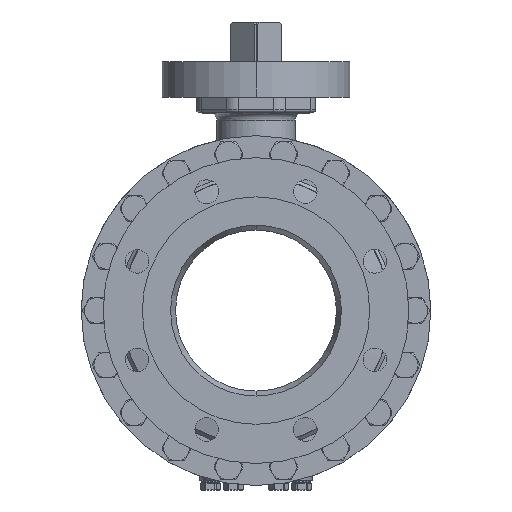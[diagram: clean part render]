
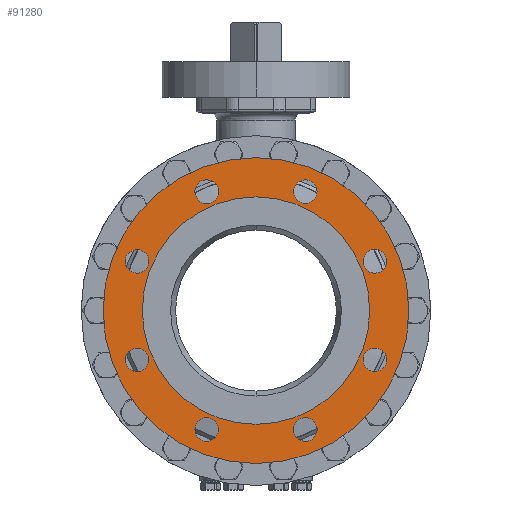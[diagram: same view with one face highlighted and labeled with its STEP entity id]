
A CAD part, left-side view. The second image highlights one B-rep face of the part: STEP entity #91280.
In plain terms, the highlighted planar face has unit normal (-1, 0, 0).
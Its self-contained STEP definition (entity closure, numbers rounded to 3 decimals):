
#14516=CARTESIAN_POINT('',(-194.,0.,0.));
#14517=DIRECTION('',(-1.,0.,0.));
#14518=DIRECTION('',(0.,0.,1.));
#14519=AXIS2_PLACEMENT_3D('',#14516,#14517,#14518);
#14521=CARTESIAN_POINT('',(-194.,0.,0.));
#14522=DIRECTION('',(-1.,0.,0.));
#14523=DIRECTION('',(0.,0.,-1.));
#14524=AXIS2_PLACEMENT_3D('',#14521,#14522,#14523);
#14526=CARTESIAN_POINT('',(-194.,-45.922,110.866));
#14527=DIRECTION('',(-1.,0.,0.));
#14528=DIRECTION('',(0.,-1.,0.));
#14529=AXIS2_PLACEMENT_3D('',#14526,#14527,#14528);
#14531=CARTESIAN_POINT('',(-194.,-45.922,110.866));
#14532=DIRECTION('',(-1.,0.,0.));
#14533=DIRECTION('',(0.,1.,0.));
#14534=AXIS2_PLACEMENT_3D('',#14531,#14532,#14533);
#14536=CARTESIAN_POINT('',(-194.,45.922,110.866));
#14537=DIRECTION('',(-1.,0.,0.));
#14538=DIRECTION('',(0.,-0.707,0.707));
#14539=AXIS2_PLACEMENT_3D('',#14536,#14537,#14538);
#14541=CARTESIAN_POINT('',(-194.,45.922,110.866));
#14542=DIRECTION('',(-1.,0.,0.));
#14543=DIRECTION('',(0.,0.707,-0.707));
#14544=AXIS2_PLACEMENT_3D('',#14541,#14542,#14543);
#14546=CARTESIAN_POINT('',(-194.,110.866,45.922));
#14547=DIRECTION('',(-1.,0.,0.));
#14548=DIRECTION('',(0.,0.,1.));
#14549=AXIS2_PLACEMENT_3D('',#14546,#14547,#14548);
#14551=CARTESIAN_POINT('',(-194.,110.866,45.922));
#14552=DIRECTION('',(-1.,0.,0.));
#14553=DIRECTION('',(0.,0.,-1.));
#14554=AXIS2_PLACEMENT_3D('',#14551,#14552,#14553);
#14556=CARTESIAN_POINT('',(-194.,110.866,-45.922));
#14557=DIRECTION('',(-1.,0.,0.));
#14558=DIRECTION('',(0.,0.707,0.707));
#14559=AXIS2_PLACEMENT_3D('',#14556,#14557,#14558);
#14561=CARTESIAN_POINT('',(-194.,110.866,-45.922));
#14562=DIRECTION('',(-1.,0.,0.));
#14563=DIRECTION('',(0.,-0.707,-0.707));
#14564=AXIS2_PLACEMENT_3D('',#14561,#14562,#14563);
#14566=CARTESIAN_POINT('',(-194.,45.922,-110.866));
#14567=DIRECTION('',(-1.,0.,0.));
#14568=DIRECTION('',(0.,1.,0.));
#14569=AXIS2_PLACEMENT_3D('',#14566,#14567,#14568);
#14571=CARTESIAN_POINT('',(-194.,45.922,-110.866));
#14572=DIRECTION('',(-1.,0.,0.));
#14573=DIRECTION('',(0.,-1.,0.));
#14574=AXIS2_PLACEMENT_3D('',#14571,#14572,#14573);
#14576=CARTESIAN_POINT('',(-194.,-45.922,-110.866));
#14577=DIRECTION('',(-1.,0.,0.));
#14578=DIRECTION('',(0.,0.707,-0.707));
#14579=AXIS2_PLACEMENT_3D('',#14576,#14577,#14578);
#14581=CARTESIAN_POINT('',(-194.,-45.922,-110.866));
#14582=DIRECTION('',(-1.,0.,0.));
#14583=DIRECTION('',(0.,-0.707,0.707));
#14584=AXIS2_PLACEMENT_3D('',#14581,#14582,#14583);
#14586=CARTESIAN_POINT('',(-194.,-110.866,-45.922));
#14587=DIRECTION('',(-1.,0.,0.));
#14588=DIRECTION('',(0.,0.,-1.));
#14589=AXIS2_PLACEMENT_3D('',#14586,#14587,#14588);
#14591=CARTESIAN_POINT('',(-194.,-110.866,-45.922));
#14592=DIRECTION('',(-1.,0.,0.));
#14593=DIRECTION('',(0.,0.,1.));
#14594=AXIS2_PLACEMENT_3D('',#14591,#14592,#14593);
#14596=CARTESIAN_POINT('',(-194.,-110.866,45.922));
#14597=DIRECTION('',(-1.,0.,0.));
#14598=DIRECTION('',(0.,-0.707,-0.707));
#14599=AXIS2_PLACEMENT_3D('',#14596,#14597,#14598);
#14601=CARTESIAN_POINT('',(-194.,-110.866,45.922));
#14602=DIRECTION('',(-1.,0.,0.));
#14603=DIRECTION('',(0.,0.707,0.707));
#14604=AXIS2_PLACEMENT_3D('',#14601,#14602,#14603);
#14610=CARTESIAN_POINT('',(-194.,0.,0.));
#14611=DIRECTION('',(-1.,0.,0.));
#14612=DIRECTION('',(0.,0.,1.));
#14613=AXIS2_PLACEMENT_3D('',#14610,#14611,#14612);
#14639=CARTESIAN_POINT('',(-194.,0.,0.));
#14640=DIRECTION('',(1.,0.,0.));
#14641=DIRECTION('',(0.,0.,1.));
#14642=AXIS2_PLACEMENT_3D('',#14639,#14640,#14641);
#57963=CARTESIAN_POINT('',(-194.,0.,106.));
#57964=CARTESIAN_POINT('',(-194.,0.,-106.));
#57965=VERTEX_POINT('',#57963);
#57966=VERTEX_POINT('',#57964);
#57967=CARTESIAN_POINT('',(-194.,0.,142.5));
#57968=CARTESIAN_POINT('',(-194.,0.,-142.5));
#57969=VERTEX_POINT('',#57967);
#57970=VERTEX_POINT('',#57968);
#57979=CARTESIAN_POINT('',(-194.,-56.922,110.866));
#57980=CARTESIAN_POINT('',(-194.,-34.922,110.866));
#57981=VERTEX_POINT('',#57979);
#57982=VERTEX_POINT('',#57980);
#57987=CARTESIAN_POINT('',(-194.,38.144,118.644));
#57988=CARTESIAN_POINT('',(-194.,53.7,103.087));
#57989=VERTEX_POINT('',#57987);
#57990=VERTEX_POINT('',#57988);
#57995=CARTESIAN_POINT('',(-194.,110.866,56.922));
#57996=CARTESIAN_POINT('',(-194.,110.866,34.922));
#57997=VERTEX_POINT('',#57995);
#57998=VERTEX_POINT('',#57996);
#58003=CARTESIAN_POINT('',(-194.,118.644,-38.144));
#58004=CARTESIAN_POINT('',(-194.,103.087,-53.7));
#58005=VERTEX_POINT('',#58003);
#58006=VERTEX_POINT('',#58004);
#58011=CARTESIAN_POINT('',(-194.,56.922,-110.866));
#58012=CARTESIAN_POINT('',(-194.,34.922,-110.866));
#58013=VERTEX_POINT('',#58011);
#58014=VERTEX_POINT('',#58012);
#58019=CARTESIAN_POINT('',(-194.,-38.144,-118.644));
#58020=CARTESIAN_POINT('',(-194.,-53.7,-103.087));
#58021=VERTEX_POINT('',#58019);
#58022=VERTEX_POINT('',#58020);
#58027=CARTESIAN_POINT('',(-194.,-110.866,-56.922));
#58028=CARTESIAN_POINT('',(-194.,-110.866,-34.922));
#58029=VERTEX_POINT('',#58027);
#58030=VERTEX_POINT('',#58028);
#58035=CARTESIAN_POINT('',(-194.,-118.644,38.144));
#58036=CARTESIAN_POINT('',(-194.,-103.087,53.7));
#58037=VERTEX_POINT('',#58035);
#58038=VERTEX_POINT('',#58036);
#91216=CARTESIAN_POINT('',(-194.,0.,0.));
#91217=DIRECTION('',(1.,0.,0.));
#91218=DIRECTION('',(0.,0.,1.));
#91219=AXIS2_PLACEMENT_3D('',#91216,#91217,#91218);
#91220=PLANE('',#91219);
#91222=ORIENTED_EDGE('',*,*,#91221,.F.);
#91223=ORIENTED_EDGE('',*,*,#91206,.F.);
#91224=EDGE_LOOP('',(#91222,#91223));
#91225=FACE_OUTER_BOUND('',#91224,.F.);
#91227=ORIENTED_EDGE('',*,*,#91226,.T.);
#91229=ORIENTED_EDGE('',*,*,#91228,.F.);
#91230=EDGE_LOOP('',(#91227,#91229));
#91231=FACE_BOUND('',#91230,.F.);
#91233=ORIENTED_EDGE('',*,*,#91232,.T.);
#91235=ORIENTED_EDGE('',*,*,#91234,.T.);
#91236=EDGE_LOOP('',(#91233,#91235));
#91237=FACE_BOUND('',#91236,.F.);
#91239=ORIENTED_EDGE('',*,*,#91238,.T.);
#91241=ORIENTED_EDGE('',*,*,#91240,.T.);
#91242=EDGE_LOOP('',(#91239,#91241));
#91243=FACE_BOUND('',#91242,.F.);
#91245=ORIENTED_EDGE('',*,*,#91244,.T.);
#91247=ORIENTED_EDGE('',*,*,#91246,.T.);
#91248=EDGE_LOOP('',(#91245,#91247));
#91249=FACE_BOUND('',#91248,.F.);
#91251=ORIENTED_EDGE('',*,*,#91250,.T.);
#91253=ORIENTED_EDGE('',*,*,#91252,.T.);
#91254=EDGE_LOOP('',(#91251,#91253));
#91255=FACE_BOUND('',#91254,.F.);
#91257=ORIENTED_EDGE('',*,*,#91256,.T.);
#91259=ORIENTED_EDGE('',*,*,#91258,.T.);
#91260=EDGE_LOOP('',(#91257,#91259));
#91261=FACE_BOUND('',#91260,.F.);
#91263=ORIENTED_EDGE('',*,*,#91262,.T.);
#91265=ORIENTED_EDGE('',*,*,#91264,.T.);
#91266=EDGE_LOOP('',(#91263,#91265));
#91267=FACE_BOUND('',#91266,.F.);
#91269=ORIENTED_EDGE('',*,*,#91268,.T.);
#91271=ORIENTED_EDGE('',*,*,#91270,.T.);
#91272=EDGE_LOOP('',(#91269,#91271));
#91273=FACE_BOUND('',#91272,.F.);
#91275=ORIENTED_EDGE('',*,*,#91274,.T.);
#91277=ORIENTED_EDGE('',*,*,#91276,.T.);
#91278=EDGE_LOOP('',(#91275,#91277));
#91279=FACE_BOUND('',#91278,.F.);
#91280=ADVANCED_FACE('',(#91225,#91231,#91237,#91243,#91249,#91255,#91261,
#91267,#91273,#91279),#91220,.F.);
#14520=CIRCLE('',#14519,142.5);
#14525=CIRCLE('',#14524,142.5);
#14530=CIRCLE('',#14529,11.);
#14535=CIRCLE('',#14534,11.);
#14540=CIRCLE('',#14539,11.);
#14545=CIRCLE('',#14544,11.);
#14550=CIRCLE('',#14549,11.);
#14555=CIRCLE('',#14554,11.);
#14560=CIRCLE('',#14559,11.);
#14565=CIRCLE('',#14564,11.);
#14570=CIRCLE('',#14569,11.);
#14575=CIRCLE('',#14574,11.);
#14580=CIRCLE('',#14579,11.);
#14585=CIRCLE('',#14584,11.);
#14590=CIRCLE('',#14589,11.);
#14595=CIRCLE('',#14594,11.);
#14600=CIRCLE('',#14599,11.);
#14605=CIRCLE('',#14604,11.);
#14614=CIRCLE('',#14613,106.);
#14643=CIRCLE('',#14642,106.);
#91206=EDGE_CURVE('',#57970,#57969,#14525,.T.);
#91221=EDGE_CURVE('',#57969,#57970,#14520,.T.);
#91226=EDGE_CURVE('',#57965,#57966,#14614,.T.);
#91228=EDGE_CURVE('',#57965,#57966,#14643,.T.);
#91232=EDGE_CURVE('',#57981,#57982,#14530,.T.);
#91234=EDGE_CURVE('',#57982,#57981,#14535,.T.);
#91238=EDGE_CURVE('',#57989,#57990,#14540,.T.);
#91240=EDGE_CURVE('',#57990,#57989,#14545,.T.);
#91244=EDGE_CURVE('',#57997,#57998,#14550,.T.);
#91246=EDGE_CURVE('',#57998,#57997,#14555,.T.);
#91250=EDGE_CURVE('',#58005,#58006,#14560,.T.);
#91252=EDGE_CURVE('',#58006,#58005,#14565,.T.);
#91256=EDGE_CURVE('',#58013,#58014,#14570,.T.);
#91258=EDGE_CURVE('',#58014,#58013,#14575,.T.);
#91262=EDGE_CURVE('',#58021,#58022,#14580,.T.);
#91264=EDGE_CURVE('',#58022,#58021,#14585,.T.);
#91268=EDGE_CURVE('',#58029,#58030,#14590,.T.);
#91270=EDGE_CURVE('',#58030,#58029,#14595,.T.);
#91274=EDGE_CURVE('',#58037,#58038,#14600,.T.);
#91276=EDGE_CURVE('',#58038,#58037,#14605,.T.);
